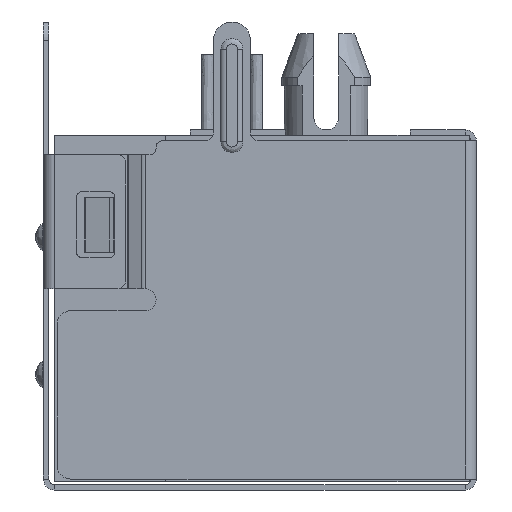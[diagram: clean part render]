
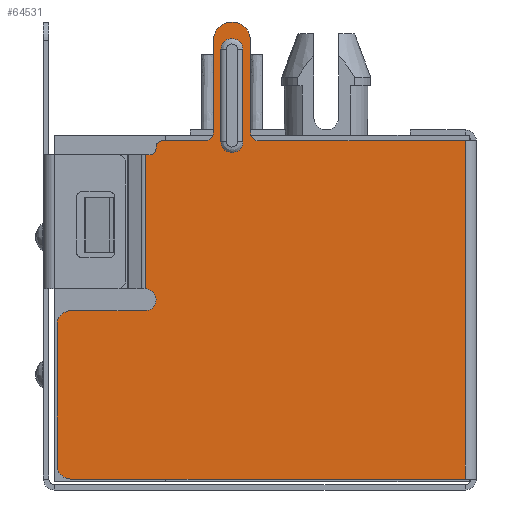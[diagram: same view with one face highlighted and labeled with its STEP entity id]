
A CAD part, left-side view. The second image highlights one B-rep face of the part: STEP entity #64531.
In plain terms, the highlighted planar face has unit normal (-1, 0, 0) as drawn and (1, 0, 0) by its records, which use the part's own axes.
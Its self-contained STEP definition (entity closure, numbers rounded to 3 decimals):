
#55534=DIRECTION('',(0.,0.,1.));
#55535=VECTOR('',#55534,12.3);
#55536=CARTESIAN_POINT('',(24.,-0.2,-12.3));
#55537=LINE('',#55536,#55535);
#55552=DIRECTION('',(0.,-1.,0.));
#55553=VECTOR('',#55552,7.515);
#55554=CARTESIAN_POINT('',(24.,-0.2,0.));
#55555=LINE('',#55554,#55553);
#55556=DIRECTION('',(0.,1.,0.));
#55557=VECTOR('',#55556,14.35);
#55558=CARTESIAN_POINT('',(24.,-14.55,-12.3));
#55559=LINE('',#55558,#55557);
#55560=CARTESIAN_POINT('',(24.,-14.55,-11.8));
#55561=DIRECTION('',(1.,0.,0.));
#55562=DIRECTION('',(0.,-1.,0.));
#55563=AXIS2_PLACEMENT_3D('',#55560,#55561,#55562);
#55565=DIRECTION('',(0.,0.,-1.));
#55566=VECTOR('',#55565,5.12);
#55567=CARTESIAN_POINT('',(24.,-15.05,-6.68));
#55568=LINE('',#55567,#55566);
#55569=CARTESIAN_POINT('',(24.,-14.55,-6.68));
#55570=DIRECTION('',(1.,0.,0.));
#55571=DIRECTION('',(0.,0.,1.));
#55572=AXIS2_PLACEMENT_3D('',#55569,#55570,#55571);
#55574=DIRECTION('',(0.,-1.,0.));
#55575=VECTOR('',#55574,2.7);
#55576=CARTESIAN_POINT('',(24.,-11.85,-6.18));
#55577=LINE('',#55576,#55575);
#55578=CARTESIAN_POINT('',(24.,-11.85,-5.78));
#55579=DIRECTION('',(-1.,0.,0.));
#55580=DIRECTION('',(0.,0.,1.));
#55581=AXIS2_PLACEMENT_3D('',#55578,#55579,#55580);
#55583=DIRECTION('',(0.,-1.,0.));
#55584=VECTOR('',#55583,0.18);
#55585=CARTESIAN_POINT('',(24.,-11.67,-0.5));
#55586=LINE('',#55585,#55584);
#55587=CARTESIAN_POINT('',(24.,-11.67,-0.28));
#55588=DIRECTION('',(-1.,0.,0.));
#55589=DIRECTION('',(0.,1.,0.));
#55590=AXIS2_PLACEMENT_3D('',#55587,#55588,#55589);
#55592=DIRECTION('',(0.,0.,-1.));
#55593=VECTOR('',#55592,0.06);
#55594=CARTESIAN_POINT('',(24.,-11.45,-0.22));
#55595=LINE('',#55594,#55593);
#55596=CARTESIAN_POINT('',(24.,-11.23,-0.22));
#55597=DIRECTION('',(1.,0.,0.));
#55598=DIRECTION('',(0.,0.,1.));
#55599=AXIS2_PLACEMENT_3D('',#55596,#55597,#55598);
#55601=DIRECTION('',(0.,-1.,0.));
#55602=VECTOR('',#55601,1.565);
#55603=CARTESIAN_POINT('',(24.,-9.665,0.));
#55604=LINE('',#55603,#55602);
#55605=CARTESIAN_POINT('',(24.,-9.665,0.3));
#55606=DIRECTION('',(-1.,0.,0.));
#55607=DIRECTION('',(0.,1.,0.));
#55608=AXIS2_PLACEMENT_3D('',#55605,#55606,#55607);
#55610=DIRECTION('',(0.,0.,-1.));
#55611=VECTOR('',#55610,3.35);
#55612=CARTESIAN_POINT('',(24.,-9.365,3.65));
#55613=LINE('',#55612,#55611);
#55614=CARTESIAN_POINT('',(24.,-8.69,3.65));
#55615=DIRECTION('',(1.,0.,0.));
#55616=DIRECTION('',(0.,1.,0.));
#55617=AXIS2_PLACEMENT_3D('',#55614,#55615,#55616);
#55619=DIRECTION('',(0.,0.,1.));
#55620=VECTOR('',#55619,3.35);
#55621=CARTESIAN_POINT('',(24.,-8.015,0.3));
#55622=LINE('',#55621,#55620);
#55623=CARTESIAN_POINT('',(24.,-7.715,0.3));
#55624=DIRECTION('',(-1.,0.,0.));
#55625=DIRECTION('',(0.,0.,-1.));
#55626=AXIS2_PLACEMENT_3D('',#55623,#55624,#55625);
#55628=CARTESIAN_POINT('',(24.,-8.69,3.325));
#55629=DIRECTION('',(1.,0.,0.));
#55630=DIRECTION('',(0.,1.,0.));
#55631=AXIS2_PLACEMENT_3D('',#55628,#55629,#55630);
#55633=DIRECTION('',(0.,0.,-1.));
#55634=VECTOR('',#55633,3.35);
#55635=CARTESIAN_POINT('',(24.,-9.09,3.325));
#55636=LINE('',#55635,#55634);
#55637=CARTESIAN_POINT('',(24.,-8.69,-0.025));
#55638=DIRECTION('',(1.,0.,0.));
#55639=DIRECTION('',(0.,-1.,0.));
#55640=AXIS2_PLACEMENT_3D('',#55637,#55638,#55639);
#55642=DIRECTION('',(0.,0.,1.));
#55643=VECTOR('',#55642,3.35);
#55644=CARTESIAN_POINT('',(24.,-8.29,-0.025));
#55645=LINE('',#55644,#55643);
#55704=DIRECTION('',(0.,0.,1.));
#55705=VECTOR('',#55704,4.88);
#55706=CARTESIAN_POINT('',(24.,-11.85,-5.38));
#55707=LINE('',#55706,#55705);
#56270=CARTESIAN_POINT('',(24.,-11.23,0.));
#56271=CARTESIAN_POINT('',(24.,-11.45,-0.22));
#56272=VERTEX_POINT('',#56270);
#56273=VERTEX_POINT('',#56271);
#56274=CARTESIAN_POINT('',(24.,-11.45,-0.28));
#56275=VERTEX_POINT('',#56274);
#56276=CARTESIAN_POINT('',(24.,-11.67,-0.5));
#56277=VERTEX_POINT('',#56276);
#56278=CARTESIAN_POINT('',(24.,-11.85,-0.5));
#56279=VERTEX_POINT('',#56278);
#56280=CARTESIAN_POINT('',(24.,-11.85,-5.38));
#56281=CARTESIAN_POINT('',(24.,-11.85,-6.18));
#56282=VERTEX_POINT('',#56280);
#56283=VERTEX_POINT('',#56281);
#56284=CARTESIAN_POINT('',(24.,-14.55,-6.18));
#56285=VERTEX_POINT('',#56284);
#56286=CARTESIAN_POINT('',(24.,-15.05,-6.68));
#56287=VERTEX_POINT('',#56286);
#56288=CARTESIAN_POINT('',(24.,-15.05,-11.8));
#56289=VERTEX_POINT('',#56288);
#56290=CARTESIAN_POINT('',(24.,-14.55,-12.3));
#56291=VERTEX_POINT('',#56290);
#56292=CARTESIAN_POINT('',(24.,-0.2,-12.3));
#56293=VERTEX_POINT('',#56292);
#56474=CARTESIAN_POINT('',(24.,-0.2,0.));
#56475=CARTESIAN_POINT('',(24.,-7.715,0.));
#56476=VERTEX_POINT('',#56474);
#56477=VERTEX_POINT('',#56475);
#56478=CARTESIAN_POINT('',(24.,-8.015,0.3));
#56479=VERTEX_POINT('',#56478);
#56480=CARTESIAN_POINT('',(24.,-8.015,3.65));
#56481=VERTEX_POINT('',#56480);
#56482=CARTESIAN_POINT('',(24.,-9.365,3.65));
#56483=VERTEX_POINT('',#56482);
#56484=CARTESIAN_POINT('',(24.,-9.365,0.3));
#56485=VERTEX_POINT('',#56484);
#56486=CARTESIAN_POINT('',(24.,-9.665,0.));
#56487=VERTEX_POINT('',#56486);
#56510=CARTESIAN_POINT('',(24.,-8.29,3.325));
#56511=CARTESIAN_POINT('',(24.,-9.09,3.325));
#56512=VERTEX_POINT('',#56510);
#56513=VERTEX_POINT('',#56511);
#56514=CARTESIAN_POINT('',(24.,-9.09,-0.025));
#56515=VERTEX_POINT('',#56514);
#56516=CARTESIAN_POINT('',(24.,-8.29,-0.025));
#56517=VERTEX_POINT('',#56516);
#64477=CARTESIAN_POINT('',(24.,0.2,-2.922));
#64478=DIRECTION('',(1.,0.,0.));
#64479=DIRECTION('',(0.,-1.,0.));
#64480=AXIS2_PLACEMENT_3D('',#64477,#64478,#64479);
#64481=PLANE('',#64480);
#64483=ORIENTED_EDGE('',*,*,#64482,.F.);
#64484=ORIENTED_EDGE('',*,*,#64468,.F.);
#64486=ORIENTED_EDGE('',*,*,#64485,.F.);
#64488=ORIENTED_EDGE('',*,*,#64487,.F.);
#64490=ORIENTED_EDGE('',*,*,#64489,.F.);
#64492=ORIENTED_EDGE('',*,*,#64491,.F.);
#64494=ORIENTED_EDGE('',*,*,#64493,.F.);
#64496=ORIENTED_EDGE('',*,*,#64495,.F.);
#64498=ORIENTED_EDGE('',*,*,#64497,.T.);
#64500=ORIENTED_EDGE('',*,*,#64499,.F.);
#64502=ORIENTED_EDGE('',*,*,#64501,.F.);
#64504=ORIENTED_EDGE('',*,*,#64503,.F.);
#64506=ORIENTED_EDGE('',*,*,#64505,.F.);
#64508=ORIENTED_EDGE('',*,*,#64507,.F.);
#64510=ORIENTED_EDGE('',*,*,#64509,.F.);
#64512=ORIENTED_EDGE('',*,*,#64511,.F.);
#64514=ORIENTED_EDGE('',*,*,#64513,.F.);
#64516=ORIENTED_EDGE('',*,*,#64515,.F.);
#64518=ORIENTED_EDGE('',*,*,#64517,.F.);
#64519=EDGE_LOOP('',(#64483,#64484,#64486,#64488,#64490,#64492,#64494,#64496,
#64498,#64500,#64502,#64504,#64506,#64508,#64510,#64512,#64514,#64516,#64518));
#64520=FACE_OUTER_BOUND('',#64519,.F.);
#64522=ORIENTED_EDGE('',*,*,#64521,.T.);
#64524=ORIENTED_EDGE('',*,*,#64523,.T.);
#64526=ORIENTED_EDGE('',*,*,#64525,.T.);
#64528=ORIENTED_EDGE('',*,*,#64527,.T.);
#64529=EDGE_LOOP('',(#64522,#64524,#64526,#64528));
#64530=FACE_BOUND('',#64529,.F.);
#64531=ADVANCED_FACE('',(#64520,#64530),#64481,.T.);
#55564=CIRCLE('',#55563,0.5);
#55573=CIRCLE('',#55572,0.5);
#55582=CIRCLE('',#55581,0.4);
#55591=CIRCLE('',#55590,0.22);
#55600=CIRCLE('',#55599,0.22);
#55609=CIRCLE('',#55608,0.3);
#55618=CIRCLE('',#55617,0.675);
#55627=CIRCLE('',#55626,0.3);
#55632=CIRCLE('',#55631,0.4);
#55641=CIRCLE('',#55640,0.4);
#64468=EDGE_CURVE('',#56293,#56476,#55537,.T.);
#64482=EDGE_CURVE('',#56476,#56477,#55555,.T.);
#64485=EDGE_CURVE('',#56291,#56293,#55559,.T.);
#64487=EDGE_CURVE('',#56289,#56291,#55564,.T.);
#64489=EDGE_CURVE('',#56287,#56289,#55568,.T.);
#64491=EDGE_CURVE('',#56285,#56287,#55573,.T.);
#64493=EDGE_CURVE('',#56283,#56285,#55577,.T.);
#64495=EDGE_CURVE('',#56282,#56283,#55582,.T.);
#64497=EDGE_CURVE('',#56282,#56279,#55707,.T.);
#64499=EDGE_CURVE('',#56277,#56279,#55586,.T.);
#64501=EDGE_CURVE('',#56275,#56277,#55591,.T.);
#64503=EDGE_CURVE('',#56273,#56275,#55595,.T.);
#64505=EDGE_CURVE('',#56272,#56273,#55600,.T.);
#64507=EDGE_CURVE('',#56487,#56272,#55604,.T.);
#64509=EDGE_CURVE('',#56485,#56487,#55609,.T.);
#64511=EDGE_CURVE('',#56483,#56485,#55613,.T.);
#64513=EDGE_CURVE('',#56481,#56483,#55618,.T.);
#64515=EDGE_CURVE('',#56479,#56481,#55622,.T.);
#64517=EDGE_CURVE('',#56477,#56479,#55627,.T.);
#64521=EDGE_CURVE('',#56512,#56513,#55632,.T.);
#64523=EDGE_CURVE('',#56513,#56515,#55636,.T.);
#64525=EDGE_CURVE('',#56515,#56517,#55641,.T.);
#64527=EDGE_CURVE('',#56517,#56512,#55645,.T.);
